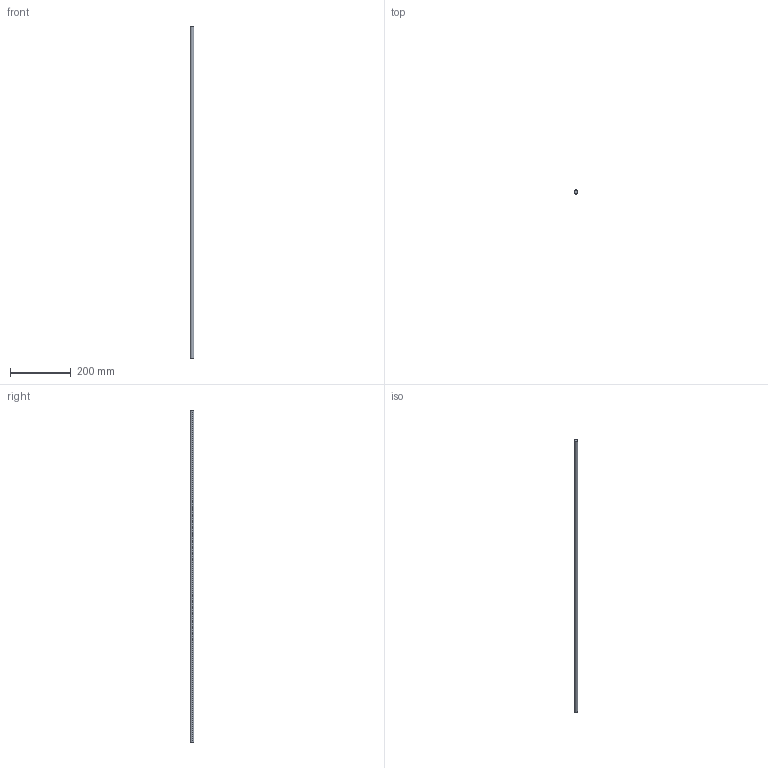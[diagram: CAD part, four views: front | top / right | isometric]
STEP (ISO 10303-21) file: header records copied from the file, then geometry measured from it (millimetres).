
FILE_DESCRIPTION (( 'STEP AP214' ), '1' );
FILE_NAME ('Magic Reling quer - S16_S17 - 1200.step', '2010-09-07T14:56:09', ( 'grass' ), ( '' ), 'SwSTEP 2.0', 'SolidWorks 2010', '' );
FILE_SCHEMA (( 'AUTOMOTIVE_DESIGN' ));
Length unit declared in the file: millimetre
Products named in the file (1): Magic Reling quer - S16_S17 - 1200
Bounding box: 12 x 12 x 1095 mm (x, y, z)
Volume: 123841.6 mm3; surface area: 41506.7 mm2
Topology: 1 solids, 1 shells, 4 faces, 6 edges, 4 vertices
Faces by surface type: cylinder 2, plane 2
Entity records: 128 total; most frequent: DIRECTION 20, CARTESIAN_POINT 15, ORIENTED_EDGE 12, AXIS2_PLACEMENT_3D 9, EDGE_CURVE 6, VERTEX_POINT 4, ADVANCED_FACE 4, EDGE_LOOP 4
